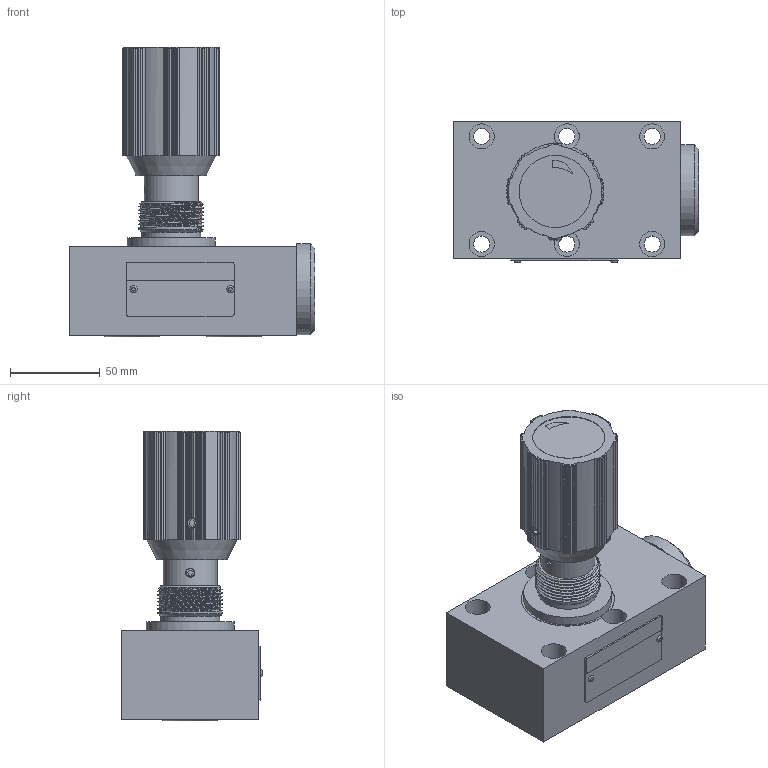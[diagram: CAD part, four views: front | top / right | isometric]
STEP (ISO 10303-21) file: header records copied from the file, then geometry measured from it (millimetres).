
FILE_DESCRIPTION(/* description */ (''),/* implementation_level */ '2;1');
FILE_NAME(/* name */ 'DRVP20-1XJ单向节流截止阀.prt.stp',/* time_stamp */ '2022-03-30T19:59:48+08:00',/* author */ (''),/* organization */ (''),/* preprocessor_version */ 'ST-DEVELOPER v16.7',/* originating_system */ 'SIEMENS PLM Software NX 12.0',/* authorisation */ '');
FILE_SCHEMA (('AUTOMOTIVE_DESIGN { 1 0 10303 214 3 1 1 1 }'));
Length unit declared in the file: millimetre
Products named in the file (1): DRVP20-1XJ单向节流截止阀
Bounding box: 137.15 x 78.5 x 161.42 mm (x, y, z)
Volume: 640660.4 mm3; surface area: 108910.4 mm2
Topology: 17 solids, 17 shells, 390 faces, 1022 edges, 680 vertices
Faces by surface type: plane 219, cylinder 125, bspline 18, cone 17, torus 11
Full cylindrical faces by diameter (mm): 1.8 x4, 1.9 x2, 4.6 x1, 5 x2, 9 x6, 14 x6, 15.221 x1, 16 x1, 24 x1, 29.92 x1, 30 x2, 30.3 x1, 31.5 x2, 33 x1, 34.5 x2, 38.7 x1, 40.205 x2, 45 x1, 49 x1, 50.49 x1, 50.737 x1
Entity records: 29788 total; most frequent: CARTESIAN_POINT 20554, ORIENTED_EDGE 1850, DIRECTION 1800, EDGE_CURVE 925, AXIS2_PLACEMENT_3D 677, VERTEX_POINT 654, EDGE_LOOP 494, LINE 446
